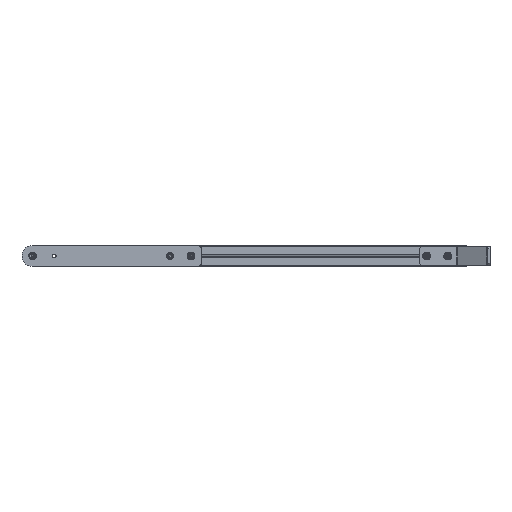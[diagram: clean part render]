
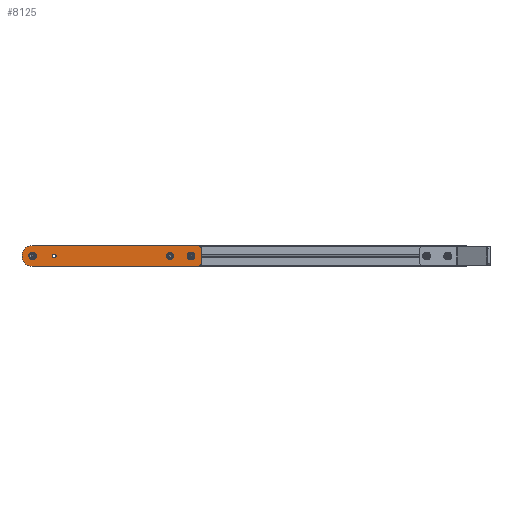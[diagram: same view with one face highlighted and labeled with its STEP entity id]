
A CAD part, left-side view. The second image highlights one B-rep face of the part: STEP entity #8125.
In plain terms, the highlighted planar face has unit normal (-1, 0, 0) as drawn and (0, 0, 1) by its records, which use the part's own axes.
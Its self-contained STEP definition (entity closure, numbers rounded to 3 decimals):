
#20 = ORIENTED_EDGE ( 'NONE', *, *, #9105, .F. ) ;
#356 = AXIS2_PLACEMENT_3D ( 'NONE', #597, #7859, #9848 ) ;
#509 = CARTESIAN_POINT ( 'NONE',  ( -22.5, 0., 8. ) ) ;
#597 = CARTESIAN_POINT ( 'NONE',  ( 0., 0., 8. ) ) ;
#631 = DIRECTION ( 'NONE',  ( 1., 0., 0. ) ) ;
#723 = EDGE_CURVE ( 'NONE', #3468, #11402, #11923, .T. ) ;
#827 = LINE ( 'NONE', #5218, #3417 ) ;
#866 = AXIS2_PLACEMENT_3D ( 'NONE', #4025, #7674, #11362 ) ;
#960 = EDGE_CURVE ( 'NONE', #11630, #11630, #4795, .T. ) ;
#1059 = ORIENTED_EDGE ( 'NONE', *, *, #10255, .T. ) ;
#1205 = VERTEX_POINT ( 'NONE', #8571 ) ;
#1481 = EDGE_CURVE ( 'NONE', #6037, #4219, #6566, .T. ) ;
#1602 = DIRECTION ( 'NONE',  ( 0., 0., 1. ) ) ;
#1603 = DIRECTION ( 'NONE',  ( 0., 0., 1. ) ) ;
#1700 = EDGE_CURVE ( 'NONE', #11402, #6037, #6092, .T. ) ;
#1870 = ORIENTED_EDGE ( 'NONE', *, *, #6781, .F. ) ;
#2030 = DIRECTION ( 'NONE',  ( 1., 0., 0. ) ) ;
#2307 = DIRECTION ( 'NONE',  ( -1., 0., 0. ) ) ;
#2629 = ORIENTED_EDGE ( 'NONE', *, *, #723, .T. ) ;
#2714 = CARTESIAN_POINT ( 'NONE',  ( 0., -46., 8. ) ) ;
#2950 = CARTESIAN_POINT ( 'NONE',  ( 0., -292.5, 8. ) ) ;
#3398 = DIRECTION ( 'NONE',  ( 0., 0., 1. ) ) ;
#3417 = VECTOR ( 'NONE', #10023, 1000. ) ;
#3468 = VERTEX_POINT ( 'NONE', #509 ) ;
#3682 = VERTEX_POINT ( 'NONE', #3918 ) ;
#3688 = EDGE_LOOP ( 'NONE', ( #20 ) ) ;
#3702 = CIRCLE ( 'NONE', #10802, 4.25 ) ;
#3718 = ORIENTED_EDGE ( 'NONE', *, *, #1481, .T. ) ;
#3918 = CARTESIAN_POINT ( 'NONE',  ( 4.25, -292.5, 8. ) ) ;
#3969 = PLANE ( 'NONE',  #866 ) ;
#4025 = CARTESIAN_POINT ( 'NONE',  ( 12.5, -350., 8. ) ) ;
#4037 = CARTESIAN_POINT ( 'NONE',  ( 22.5, -350., 8. ) ) ;
#4099 = EDGE_LOOP ( 'NONE', ( #1870 ) ) ;
#4157 = CIRCLE ( 'NONE', #5699, 4.25 ) ;
#4219 = VERTEX_POINT ( 'NONE', #10971 ) ;
#4489 = CIRCLE ( 'NONE', #356, 22.5 ) ;
#4524 = VECTOR ( 'NONE', #8420, 1000. ) ;
#4743 = AXIS2_PLACEMENT_3D ( 'NONE', #7978, #7853, #2307 ) ;
#4795 = CIRCLE ( 'NONE', #11486, 4.25 ) ;
#4816 = FACE_BOUND ( 'NONE', #5418, .T. ) ;
#5056 = CARTESIAN_POINT ( 'NONE',  ( 22.5, 0., 8. ) ) ;
#5106 = EDGE_CURVE ( 'NONE', #11137, #11137, #4157, .T. ) ;
#5218 = CARTESIAN_POINT ( 'NONE',  ( 22.5, 0., 8. ) ) ;
#5346 = VECTOR ( 'NONE', #9177, 1000. ) ;
#5351 = EDGE_CURVE ( 'NONE', #4219, #6777, #10692, .T. ) ;
#5418 = EDGE_LOOP ( 'NONE', ( #9353 ) ) ;
#5531 = AXIS2_PLACEMENT_3D ( 'NONE', #8771, #1602, #11755 ) ;
#5670 = VERTEX_POINT ( 'NONE', #5056 ) ;
#5699 = AXIS2_PLACEMENT_3D ( 'NONE', #10851, #1603, #11940 ) ;
#5824 = FACE_BOUND ( 'NONE', #9217, .T. ) ;
#5955 = CIRCLE ( 'NONE', #8064, 4.25 ) ;
#6037 = VERTEX_POINT ( 'NONE', #7914 ) ;
#6091 = EDGE_CURVE ( 'NONE', #6777, #5670, #827, .T. ) ;
#6092 = CIRCLE ( 'NONE', #5531, 10. ) ;
#6159 = ORIENTED_EDGE ( 'NONE', *, *, #6091, .T. ) ;
#6384 = DIRECTION ( 'NONE',  ( 1., 0., 0. ) ) ;
#6442 = DIRECTION ( 'NONE',  ( 0., 0., 1. ) ) ;
#6566 = LINE ( 'NONE', #8243, #4524 ) ;
#6614 = DIRECTION ( 'NONE',  ( 0., 0., 1. ) ) ;
#6777 = VERTEX_POINT ( 'NONE', #4037 ) ;
#6781 = EDGE_CURVE ( 'NONE', #3682, #3682, #5955, .T. ) ;
#7104 = EDGE_LOOP ( 'NONE', ( #8250, #6159, #1059, #2629, #8439, #3718 ) ) ;
#7674 = DIRECTION ( 'NONE',  ( 0., 0., -1. ) ) ;
#7853 = DIRECTION ( 'NONE',  ( 0., 0., 1. ) ) ;
#7859 = DIRECTION ( 'NONE',  ( 0., 0., 1. ) ) ;
#7914 = CARTESIAN_POINT ( 'NONE',  ( -12.5, -360., 8. ) ) ;
#7978 = CARTESIAN_POINT ( 'NONE',  ( 12.5, -350., 8. ) ) ;
#8064 = AXIS2_PLACEMENT_3D ( 'NONE', #2950, #6614, #2030 ) ;
#8125 = ADVANCED_FACE ( 'NONE', ( #5824, #11309, #9521, #4816, #8455 ), #3969, .F. ) ;
#8228 = CARTESIAN_POINT ( 'NONE',  ( 4.25, 0., 8. ) ) ;
#8243 = CARTESIAN_POINT ( 'NONE',  ( -12.5, -360., 8. ) ) ;
#8250 = ORIENTED_EDGE ( 'NONE', *, *, #5351, .T. ) ;
#8420 = DIRECTION ( 'NONE',  ( 1., 0., 0. ) ) ;
#8439 = ORIENTED_EDGE ( 'NONE', *, *, #1700, .T. ) ;
#8455 = FACE_OUTER_BOUND ( 'NONE', #7104, .T. ) ;
#8571 = CARTESIAN_POINT ( 'NONE',  ( 4.25, -46., 8. ) ) ;
#8771 = CARTESIAN_POINT ( 'NONE',  ( -12.5, -350., 8. ) ) ;
#9105 = EDGE_CURVE ( 'NONE', #1205, #1205, #3702, .T. ) ;
#9107 = ORIENTED_EDGE ( 'NONE', *, *, #960, .F. ) ;
#9177 = DIRECTION ( 'NONE',  ( 0., -1., 0. ) ) ;
#9217 = EDGE_LOOP ( 'NONE', ( #9107 ) ) ;
#9353 = ORIENTED_EDGE ( 'NONE', *, *, #5106, .F. ) ;
#9521 = FACE_BOUND ( 'NONE', #3688, .T. ) ;
#9848 = DIRECTION ( 'NONE',  ( -1., 0., 0. ) ) ;
#10023 = DIRECTION ( 'NONE',  ( 0., 1., 0. ) ) ;
#10255 = EDGE_CURVE ( 'NONE', #5670, #3468, #4489, .T. ) ;
#10692 = CIRCLE ( 'NONE', #4743, 10. ) ;
#10802 = AXIS2_PLACEMENT_3D ( 'NONE', #2714, #6442, #6384 ) ;
#10851 = CARTESIAN_POINT ( 'NONE',  ( 0., 0., 8. ) ) ;
#10946 = CARTESIAN_POINT ( 'NONE',  ( -22.5, -350., 8. ) ) ;
#10971 = CARTESIAN_POINT ( 'NONE',  ( 12.5, -360., 8. ) ) ;
#11137 = VERTEX_POINT ( 'NONE', #8228 ) ;
#11309 = FACE_BOUND ( 'NONE', #4099, .T. ) ;
#11362 = DIRECTION ( 'NONE',  ( -1., 0., 0. ) ) ;
#11402 = VERTEX_POINT ( 'NONE', #10946 ) ;
#11486 = AXIS2_PLACEMENT_3D ( 'NONE', #11841, #3398, #631 ) ;
#11630 = VERTEX_POINT ( 'NONE', #11811 ) ;
#11755 = DIRECTION ( 'NONE',  ( 1., 0., 0. ) ) ;
#11811 = CARTESIAN_POINT ( 'NONE',  ( 4.25, -337.5, 8. ) ) ;
#11841 = CARTESIAN_POINT ( 'NONE',  ( 0., -337.5, 8. ) ) ;
#11923 = LINE ( 'NONE', #11979, #5346 ) ;
#11940 = DIRECTION ( 'NONE',  ( 1., 0., 0. ) ) ;
#11979 = CARTESIAN_POINT ( 'NONE',  ( -22.5, 0., 8. ) ) ;
